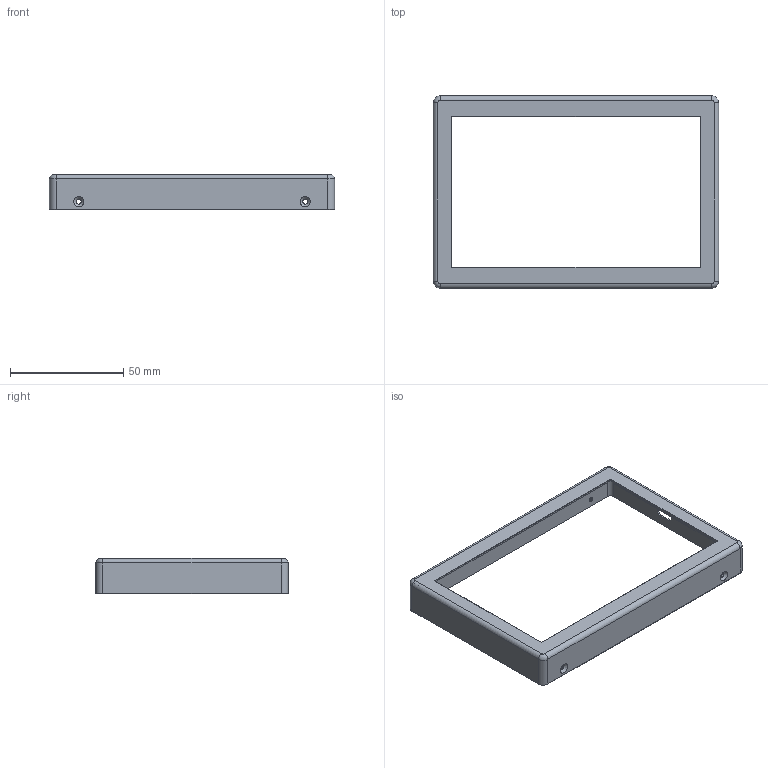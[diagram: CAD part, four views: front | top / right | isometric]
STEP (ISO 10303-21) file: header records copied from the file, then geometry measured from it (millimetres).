
FILE_DESCRIPTION(/* description */ ('STEP AP242','CAx-IF Rec.Pracs.---Representation and Presentation of Product Manufacturing Information (PMI)---4.0---2014-10-13','CAx-IF Rec.Pracs.---3D Tessellated Geometry---0.4---2014-09-14','2;1'),/* implementation_level */ '2;1');
FILE_NAME(/* name */ '62e7756d692a9b39fd658944',/* time_stamp */ '2022-08-01T06:40:47+00:00',/* author */ (''),/* organization */ (''),/* preprocessor_version */ 'ST-DEVELOPER v18.102',/* originating_system */ ' ',/* authorisation */ ' ');
FILE_SCHEMA (('AP242_MANAGED_MODEL_BASED_3D_ENGINEERING_MIM_LF { 1 0 10303 442 1 1 4 }'));
Length unit declared in the file: metre
Products named in the file (1): Ãæ°å
Bounding box: 126 x 85 x 15.5 mm (x, y, z)
Volume: 16787.4 mm3; surface area: 19050.5 mm2
Topology: 1 solids, 1 shells, 74 faces, 194 edges, 124 vertices
Faces by surface type: plane 40, cylinder 18, cone 12, torus 4
Full cylindrical faces by diameter (mm): 2.2 x4
Entity records: 2200 total; most frequent: DIRECTION 384, CARTESIAN_POINT 369, ORIENTED_EDGE 356, EDGE_CURVE 178, AXIS2_PLACEMENT_3D 131, LINE 122, VECTOR 122, VERTEX_POINT 116
